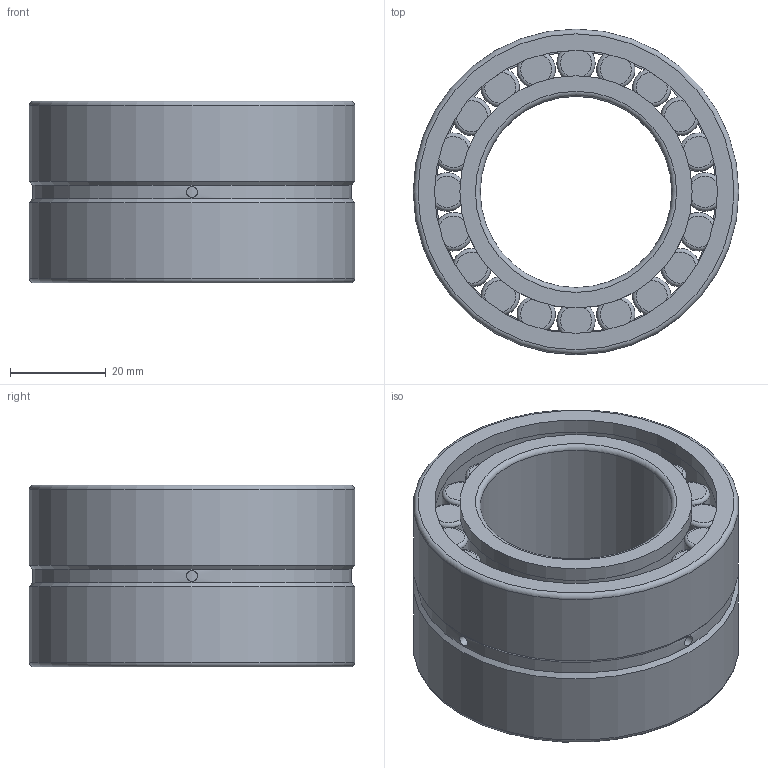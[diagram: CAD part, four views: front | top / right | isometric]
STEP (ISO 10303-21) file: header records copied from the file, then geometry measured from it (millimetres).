
FILE_DESCRIPTION(/* description */ (''),/* implementation_level */ '2;1');
FILE_NAME(/* name */ 'C:\Users\OUREHANEKD\Desktop\Ložiská\MODELY\JRVL\NNCF\NNCF50\NNCF50--\NNCF5008V.stp',/* time_stamp */ '2016-09-08T13:33:25+02:00',/* author */ ('OUREHANEKD'),/* organization */ (''),/* preprocessor_version */ 'ST-DEVELOPER v15.6',/* originating_system */ 'Autodesk Inventor 2015',/* authorisation */ '');
FILE_SCHEMA (('AUTOMOTIVE_DESIGN { 1 0 10303 214 3 1 1 }'));
Length unit declared in the file: millimetre
Products named in the file (5): NNCF5008V-01; NNCF5008V-02; NNCF5008V-kr; NNCF5008V-roller; NNCF5008V
Assembly tree (23 placements, depth 2):
  NNCF5008V
    NNCF5008V-01
    NNCF5008V-02
    NNCF5008V-kr
    NNCF5008V-roller  x20
Bounding box: 68 x 68 x 38 mm (x, y, z)
Volume: 63795 mm3; surface area: 45791.2 mm2
Topology: 43 solids, 43 shells, 237 faces, 344 edges, 200 vertices
Faces by surface type: plane 93, torus 84, cylinder 58, cone 2
Full cylindrical faces by diameter (mm): 2.28 x3, 8 x40, 40 x1, 45.8 x2, 48.5 x3, 58.5 x1, 59.1 x1, 61.8 x2, 63.3 x2, 66.48 x1, 68 x2
Entity records: 1416 total; most frequent: CARTESIAN_POINT 369, DIRECTION 234, AXIS2_PLACEMENT_3D 117, EDGE_LOOP 96, ORIENTED_EDGE 96, FACE_BOUND 49, VERTEX_POINT 48, EDGE_CURVE 48
